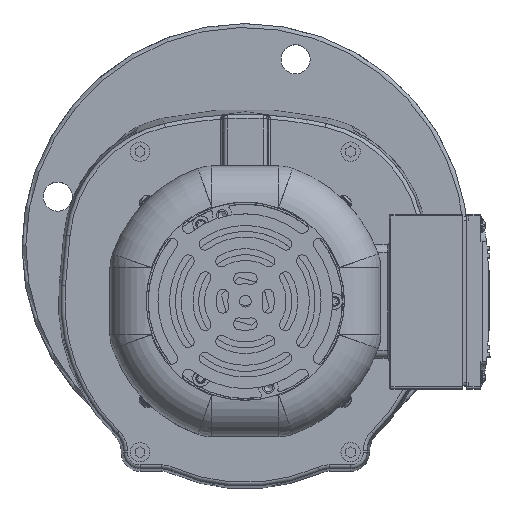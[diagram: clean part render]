
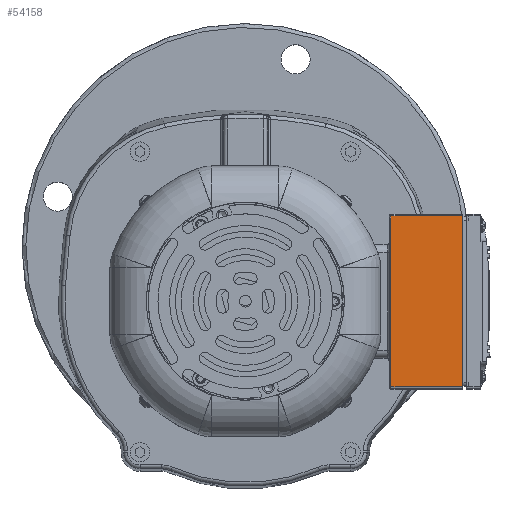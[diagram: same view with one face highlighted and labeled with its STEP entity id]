
A CAD part, top view. The second image highlights one B-rep face of the part: STEP entity #54158.
In plain terms, the highlighted planar face has unit normal (0, 0, 1).
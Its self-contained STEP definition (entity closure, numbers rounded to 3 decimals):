
#6620=PLANE('',#58050);
#7998=FACE_OUTER_BOUND('',#11357,.T.);
#11357=EDGE_LOOP('',(#39458,#39459,#39460,#39461));
#15135=LINE('',#82964,#18125);
#15136=LINE('',#82966,#18126);
#15137=LINE('',#82968,#18127);
#15138=LINE('',#82969,#18128);
#18125=VECTOR('',#65960,10.);
#18126=VECTOR('',#65961,10.);
#18127=VECTOR('',#65962,10.);
#18128=VECTOR('',#65963,10.);
#24583=VERTEX_POINT('',#82962);
#24584=VERTEX_POINT('',#82963);
#24585=VERTEX_POINT('',#82965);
#24586=VERTEX_POINT('',#82967);
#30057=EDGE_CURVE('',#24583,#24584,#15135,.T.);
#30058=EDGE_CURVE('',#24585,#24583,#15136,.T.);
#30059=EDGE_CURVE('',#24585,#24586,#15137,.T.);
#30060=EDGE_CURVE('',#24584,#24586,#15138,.T.);
#39458=ORIENTED_EDGE('',*,*,#30057,.F.);
#39459=ORIENTED_EDGE('',*,*,#30058,.F.);
#39460=ORIENTED_EDGE('',*,*,#30059,.T.);
#39461=ORIENTED_EDGE('',*,*,#30060,.F.);
#54158=ADVANCED_FACE('',(#7998),#6620,.T.);
#58050=AXIS2_PLACEMENT_3D('',#82961,#65958,#65959);
#65958=DIRECTION('center_axis',(0.,0.,
1.));
#65959=DIRECTION('ref_axis',(1.,0.,0.));
#65960=DIRECTION('',(0.,1.,0.));
#65961=DIRECTION('',(-1.,0.,0.));
#65962=DIRECTION('',(0.,1.,0.));
#65963=DIRECTION('',(1.,0.,0.));
#82961=CARTESIAN_POINT('Origin',(83.761,-64.065,207.5));
#82962=CARTESIAN_POINT('',(84.761,-63.065,207.5));
#82963=CARTESIAN_POINT('',(84.761,24.935,207.5));
#82964=CARTESIAN_POINT('',(84.761,-41.565,207.5));
#82965=CARTESIAN_POINT('',(121.761,-63.065,207.5));
#82966=CARTESIAN_POINT('',(83.761,-63.065,207.5));
#82967=CARTESIAN_POINT('',(121.761,24.935,207.5));
#82968=CARTESIAN_POINT('',(121.761,25.935,207.5));
#82969=CARTESIAN_POINT('',(83.761,24.935,207.5));
